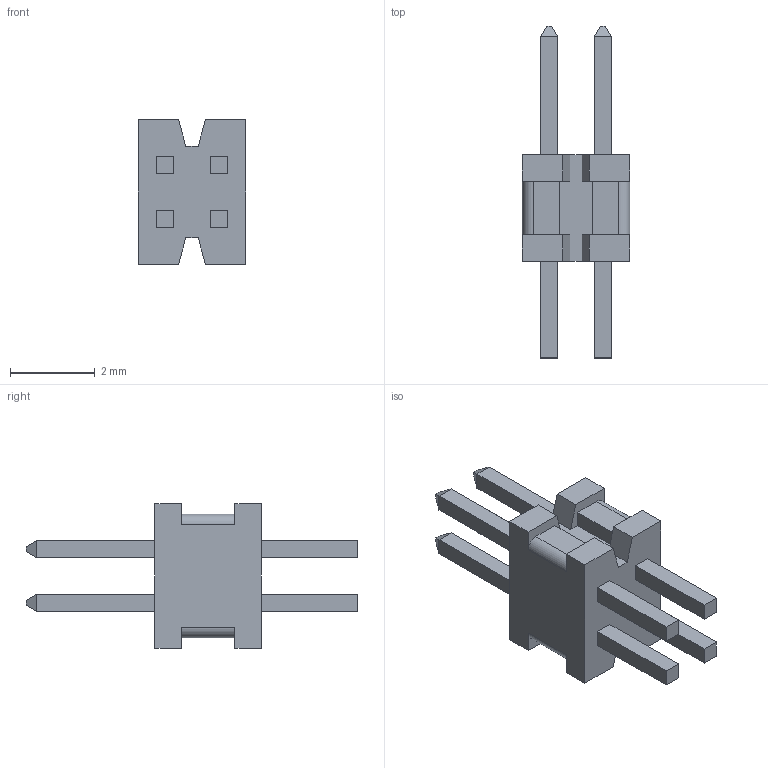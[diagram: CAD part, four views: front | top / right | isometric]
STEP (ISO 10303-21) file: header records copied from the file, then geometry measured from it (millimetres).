
FILE_DESCRIPTION (( 'STEP AP214' ), '1' );
FILE_NAME ('FTSH-102-01-L-D.STEP', '2020-04-15T21:08:53', ( '' ), ( '' ), 'SwSTEP 2.0', 'SolidWorks 2018', '' );
FILE_SCHEMA (( 'AUTOMOTIVE_DESIGN' ));
Length unit declared in the file: inch
Products named in the file (1): FTSH-102-01-L-D
Bounding box: 2.54 x 7.85 x 3.43 mm (x, y, z)
Volume: 22.2 mm3; surface area: 119.1 mm2
Topology: 9 solids, 9 shells, 122 faces, 296 edges, 192 vertices
Faces by surface type: plane 118, cylinder 4
Entity records: 3884 total; most frequent: CARTESIAN_POINT 611, ORIENTED_EDGE 592, DIRECTION 550, EDGE_CURVE 296, VECTOR 288, LINE 288, VERTEX_POINT 192, AXIS2_PLACEMENT_3D 131
